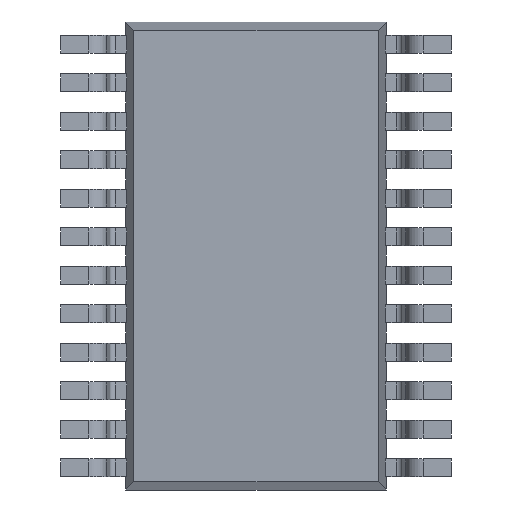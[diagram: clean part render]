
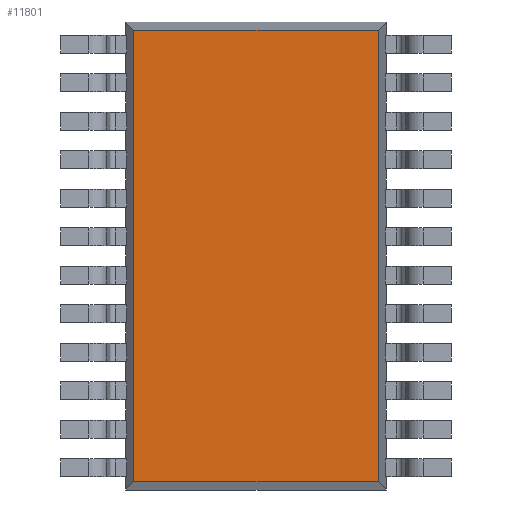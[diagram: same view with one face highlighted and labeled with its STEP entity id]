
A CAD part, front view. The second image highlights one B-rep face of the part: STEP entity #11801.
In plain terms, the highlighted planar face has unit normal (0, -1, 0).
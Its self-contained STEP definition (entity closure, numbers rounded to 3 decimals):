
#2379 = FACE_OUTER_BOUND ( 'NONE', #6800, .T. ) ;
#2755 = CARTESIAN_POINT ( 'NONE',  ( 0., 0.1, 0. ) ) ;
#2764 = PLANE ( 'NONE',  #15055 ) ;
#2766 = DIRECTION ( 'NONE',  ( 0., 1., 0. ) ) ;
#2767 = DIRECTION ( 'NONE',  ( 0., 0., 1. ) ) ;
#5977 = CARTESIAN_POINT ( 'NONE',  ( -2.059, 0.1, 3.95 ) ) ;
#5980 = DIRECTION ( 'NONE',  ( 0., 0., -1. ) ) ;
#6164 = VERTEX_POINT ( 'NONE', #8029 ) ;
#6198 = VERTEX_POINT ( 'NONE', #7992 ) ;
#6203 = VERTEX_POINT ( 'NONE', #7987 ) ;
#6800 = EDGE_LOOP ( 'NONE', ( #12604, #12603, #12602, #12601 ) ) ;
#6960 = VERTEX_POINT ( 'NONE', #7444 ) ;
#7444 = CARTESIAN_POINT ( 'NONE',  ( 2.059, 0.1, -3.809 ) ) ;
#7987 = CARTESIAN_POINT ( 'NONE',  ( 2.059, 0.1, 3.809 ) ) ;
#7992 = CARTESIAN_POINT ( 'NONE',  ( -2.059, 0.1, 3.809 ) ) ;
#8029 = CARTESIAN_POINT ( 'NONE',  ( -2.059, 0.1, -3.809 ) ) ;
#9094 = DIRECTION ( 'NONE',  ( -1., 0., 0. ) ) ;
#9095 = CARTESIAN_POINT ( 'NONE',  ( 2.2, 0.1, 3.809 ) ) ;
#9096 = DIRECTION ( 'NONE',  ( 1., 0., 0. ) ) ;
#9097 = CARTESIAN_POINT ( 'NONE',  ( 2.2, 0.1, -3.809 ) ) ;
#10020 = EDGE_CURVE ( 'NONE', #6198, #6164, #13075, .T. ) ;
#10256 = EDGE_CURVE ( 'NONE', #6164, #6960, #13502, .T. ) ;
#10257 = EDGE_CURVE ( 'NONE', #6203, #6198, #13504, .T. ) ;
#10570 = EDGE_CURVE ( 'NONE', #6960, #6203, #14074, .T. ) ;
#11468 = DIRECTION ( 'NONE',  ( 0., 0., 1. ) ) ;
#11469 = CARTESIAN_POINT ( 'NONE',  ( 2.059, 0.1, 3.95 ) ) ;
#11801 = ADVANCED_FACE ( 'NONE', ( #2379 ), #2764, .F. ) ;
#12601 = ORIENTED_EDGE ( 'NONE', *, *, #10257, .T. ) ;
#12602 = ORIENTED_EDGE ( 'NONE', *, *, #10570, .T. ) ;
#12603 = ORIENTED_EDGE ( 'NONE', *, *, #10256, .T. ) ;
#12604 = ORIENTED_EDGE ( 'NONE', *, *, #10020, .T. ) ;
#13075 = LINE ( 'NONE', #5977, #13077 ) ;
#13077 = VECTOR ( 'NONE', #5980, 1000. ) ;
#13502 = LINE ( 'NONE', #9097, #13505 ) ;
#13504 = LINE ( 'NONE', #9095, #13507 ) ;
#13505 = VECTOR ( 'NONE', #9096, 1000. ) ;
#13507 = VECTOR ( 'NONE', #9094, 1000. ) ;
#14074 = LINE ( 'NONE', #11469, #14077 ) ;
#14077 = VECTOR ( 'NONE', #11468, 1000. ) ;
#15055 = AXIS2_PLACEMENT_3D ( 'NONE', #2755, #2766, #2767 ) ;
